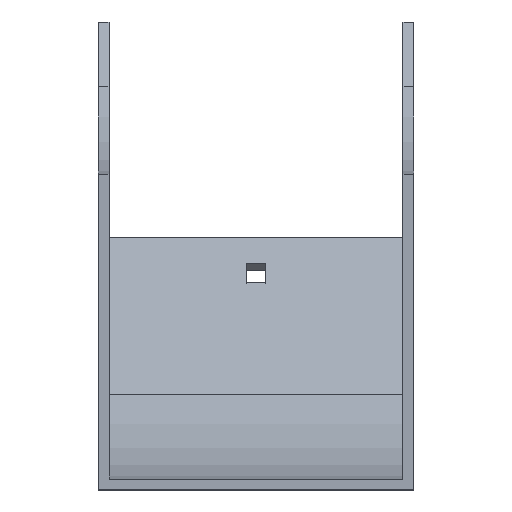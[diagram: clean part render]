
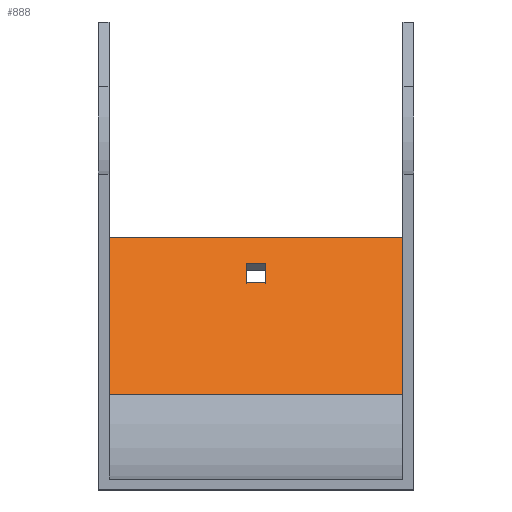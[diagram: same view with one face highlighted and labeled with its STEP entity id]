
A CAD part, top view. The second image highlights one B-rep face of the part: STEP entity #888.
In plain terms, the highlighted planar face has unit normal (0, 0.707, 0.707).
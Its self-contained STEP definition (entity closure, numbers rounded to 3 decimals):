
#16 = VERTEX_POINT ( 'NONE', #1536 ) ;
#23 = CARTESIAN_POINT ( 'NONE',  ( 52., -72.236, -141.314 ) ) ;
#108 = EDGE_CURVE ( 'NONE', #539, #1184, #683, .T. ) ;
#141 = CARTESIAN_POINT ( 'NONE',  ( -48.5, -20.562, -192.988 ) ) ;
#155 = EDGE_CURVE ( 'NONE', #1184, #719, #790, .T. ) ;
#174 = VECTOR ( 'NONE', #1509, 1000. ) ;
#176 = LINE ( 'NONE', #23, #1751 ) ;
#196 = ORIENTED_EDGE ( 'NONE', *, *, #787, .F. ) ;
#216 = AXIS2_PLACEMENT_3D ( 'NONE', #1562, #810, #1414 ) ;
#228 = DIRECTION ( 'NONE',  ( 0., 0.707, -0.707 ) ) ;
#235 = EDGE_CURVE ( 'NONE', #347, #16, #1705, .T. ) ;
#247 = ORIENTED_EDGE ( 'NONE', *, *, #155, .T. ) ;
#288 = VERTEX_POINT ( 'NONE', #374 ) ;
#299 = VECTOR ( 'NONE', #641, 1000. ) ;
#306 = VECTOR ( 'NONE', #1734, 1000. ) ;
#347 = VERTEX_POINT ( 'NONE', #691 ) ;
#374 = CARTESIAN_POINT ( 'NONE',  ( -3.25, -35.411, -178.139 ) ) ;
#377 = VECTOR ( 'NONE', #1643, 1000. ) ;
#383 = ORIENTED_EDGE ( 'NONE', *, *, #990, .T. ) ;
#415 = CARTESIAN_POINT ( 'NONE',  ( 3.25, -29.047, -184.503 ) ) ;
#457 = LINE ( 'NONE', #141, #847 ) ;
#534 = DIRECTION ( 'NONE',  ( 1., 0., 0. ) ) ;
#537 = CARTESIAN_POINT ( 'NONE',  ( 52., -20.562, -192.988 ) ) ;
#539 = VERTEX_POINT ( 'NONE', #945 ) ;
#571 = ORIENTED_EDGE ( 'NONE', *, *, #235, .T. ) ;
#639 = CARTESIAN_POINT ( 'NONE',  ( 3.25, -35.411, -178.139 ) ) ;
#641 = DIRECTION ( 'NONE',  ( -1., 0., 0. ) ) ;
#683 = LINE ( 'NONE', #1407, #1037 ) ;
#691 = CARTESIAN_POINT ( 'NONE',  ( 48.5, -72.236, -141.314 ) ) ;
#719 = VERTEX_POINT ( 'NONE', #639 ) ;
#745 = ORIENTED_EDGE ( 'NONE', *, *, #108, .T. ) ;
#770 = EDGE_CURVE ( 'NONE', #719, #288, #1788, .T. ) ;
#787 = EDGE_CURVE ( 'NONE', #347, #1647, #176, .T. ) ;
#790 = LINE ( 'NONE', #1233, #377 ) ;
#810 = DIRECTION ( 'NONE',  ( 0., 0.707, 0.707 ) ) ;
#820 = DIRECTION ( 'NONE',  ( -1., 0., 0. ) ) ;
#847 = VECTOR ( 'NONE', #1372, 1000. ) ;
#888 = ADVANCED_FACE ( 'NONE', ( #1574, #932 ), #966, .T. ) ;
#932 = FACE_BOUND ( 'NONE', #1911, .T. ) ;
#945 = CARTESIAN_POINT ( 'NONE',  ( -3.25, -29.047, -184.503 ) ) ;
#966 = PLANE ( 'NONE',  #216 ) ;
#972 = CARTESIAN_POINT ( 'NONE',  ( 48.5, -20.562, -192.988 ) ) ;
#990 = EDGE_CURVE ( 'NONE', #288, #539, #1051, .T. ) ;
#1037 = VECTOR ( 'NONE', #534, 1000. ) ;
#1048 = CARTESIAN_POINT ( 'NONE',  ( -3.25, -35.411, -178.139 ) ) ;
#1051 = LINE ( 'NONE', #1324, #174 ) ;
#1143 = CARTESIAN_POINT ( 'NONE',  ( -48.5, -20.562, -192.988 ) ) ;
#1184 = VERTEX_POINT ( 'NONE', #415 ) ;
#1208 = VERTEX_POINT ( 'NONE', #1143 ) ;
#1233 = CARTESIAN_POINT ( 'NONE',  ( 3.25, -35.411, -178.139 ) ) ;
#1281 = CARTESIAN_POINT ( 'NONE',  ( -48.5, -72.236, -141.314 ) ) ;
#1324 = CARTESIAN_POINT ( 'NONE',  ( -3.25, -35.411, -178.139 ) ) ;
#1336 = EDGE_CURVE ( 'NONE', #16, #1208, #1889, .T. ) ;
#1362 = VECTOR ( 'NONE', #228, 1000. ) ;
#1372 = DIRECTION ( 'NONE',  ( 0., 0.707, -0.707 ) ) ;
#1407 = CARTESIAN_POINT ( 'NONE',  ( -3.25, -29.047, -184.503 ) ) ;
#1414 = DIRECTION ( 'NONE',  ( 0., -0.707, 0.707 ) ) ;
#1485 = EDGE_CURVE ( 'NONE', #1647, #1208, #457, .T. ) ;
#1509 = DIRECTION ( 'NONE',  ( 0., 0.707, -0.707 ) ) ;
#1522 = ORIENTED_EDGE ( 'NONE', *, *, #1336, .T. ) ;
#1536 = CARTESIAN_POINT ( 'NONE',  ( 48.5, -20.562, -192.988 ) ) ;
#1562 = CARTESIAN_POINT ( 'NONE',  ( 52., -20.562, -192.988 ) ) ;
#1574 = FACE_OUTER_BOUND ( 'NONE', #1835, .T. ) ;
#1643 = DIRECTION ( 'NONE',  ( 0., -0.707, 0.707 ) ) ;
#1647 = VERTEX_POINT ( 'NONE', #1281 ) ;
#1705 = LINE ( 'NONE', #972, #1362 ) ;
#1734 = DIRECTION ( 'NONE',  ( -1., 0., 0. ) ) ;
#1751 = VECTOR ( 'NONE', #820, 1000. ) ;
#1788 = LINE ( 'NONE', #1048, #299 ) ;
#1835 = EDGE_LOOP ( 'NONE', ( #1929, #196, #571, #1522 ) ) ;
#1889 = LINE ( 'NONE', #537, #306 ) ;
#1911 = EDGE_LOOP ( 'NONE', ( #1948, #383, #745, #247 ) ) ;
#1929 = ORIENTED_EDGE ( 'NONE', *, *, #1485, .F. ) ;
#1948 = ORIENTED_EDGE ( 'NONE', *, *, #770, .T. ) ;
